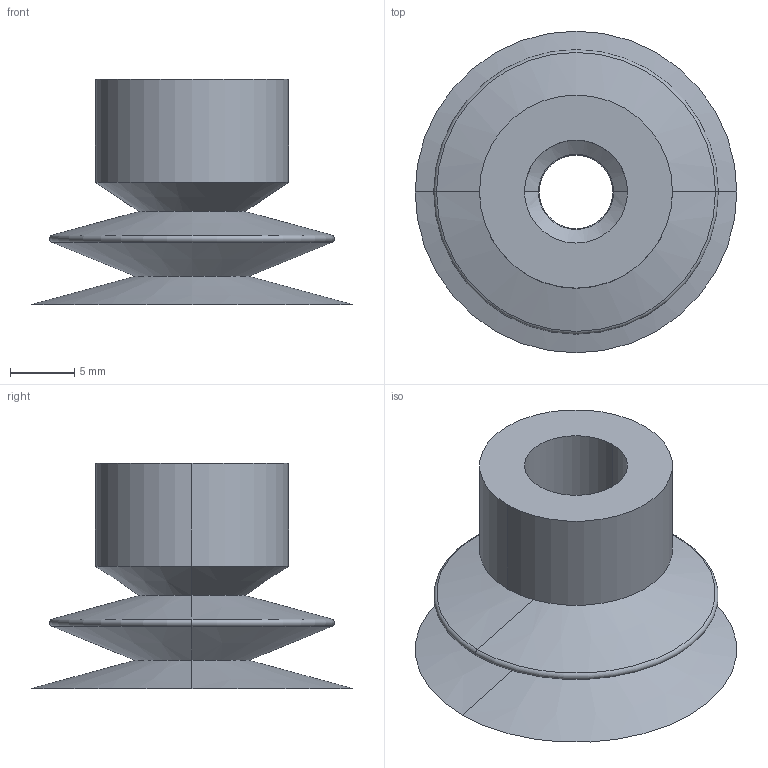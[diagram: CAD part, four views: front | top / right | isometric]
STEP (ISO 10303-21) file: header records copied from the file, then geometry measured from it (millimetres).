
FILE_DESCRIPTION (( 'STEP AP214' ), '1' );
FILE_NAME ('VSH2-M25.STEP', '2019-11-14T00:41:13', ( '微软用户' ), ( '微软中国' ), 'SwSTEP 2.0', 'SolidWorks 2016', '' );
FILE_SCHEMA (( 'AUTOMOTIVE_DESIGN' ));
Length unit declared in the file: millimetre
Products named in the file (1): VSH2-M25
Bounding box: 25 x 25 x 17.5 mm (x, y, z)
Volume: 1461.6 mm3; surface area: 3392.7 mm2
Topology: 1 solids, 1 shells, 30 faces, 60 edges, 34 vertices
Faces by surface type: cone 16, cylinder 8, plane 4, torus 2
Entity records: 814 total; most frequent: DIRECTION 158, CARTESIAN_POINT 125, ORIENTED_EDGE 120, AXIS2_PLACEMENT_3D 67, EDGE_CURVE 60, CIRCLE 36, EDGE_LOOP 34, VERTEX_POINT 34
